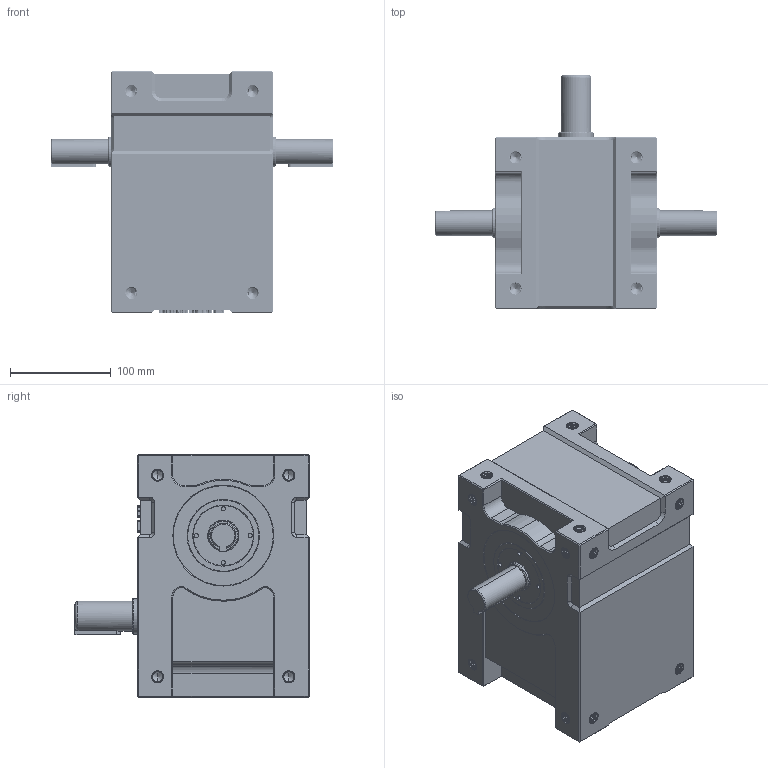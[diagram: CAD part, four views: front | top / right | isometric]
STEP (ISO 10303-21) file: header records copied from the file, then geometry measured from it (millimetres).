
FILE_DESCRIPTION (( 'STEP AP214' ), '1' );
FILE_NAME ('ER-RU80DS英锐凸轮分割器3D标准图纸(电话15062628977)AA.STEP', '2022-10-19T03:49:39', ( '微软用户' ), ( '微软中国' ), 'SwSTEP 2.0', 'SolidWorks 2017', '' );
FILE_SCHEMA (( 'AUTOMOTIVE_DESIGN' ));
Length unit declared in the file: millimetre
Products named in the file (1): ER-RU80DS英锐凸轮分割器3D标准图纸(电话15062628977)AA
Bounding box: 280 x 232 x 240 mm (x, y, z)
Volume: 6096990.9 mm3; surface area: 259626.1 mm2
Topology: 1 solids, 1 shells, 1875 faces, 4983 edges, 3166 vertices
Faces by surface type: cylinder 666, bspline 511, plane 466, cone 228, torus 4
Entity records: 260560 total; most frequent: CARTESIAN_POINT 222101, ORIENTED_EDGE 9870, DIRECTION 5075, EDGE_CURVE 4935, VERTEX_POINT 3166, B_SPLINE_CURVE_WITH_KNOTS 2037, EDGE_LOOP 2011, ADVANCED_FACE 1875
